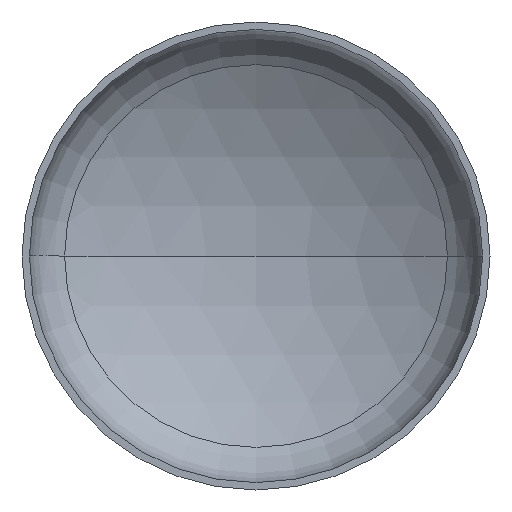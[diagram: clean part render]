
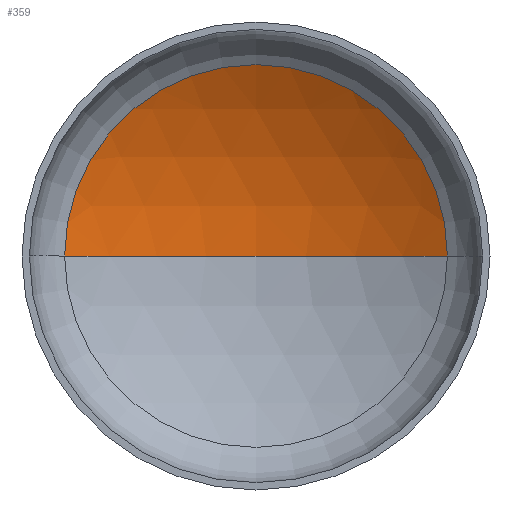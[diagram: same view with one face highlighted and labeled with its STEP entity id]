
A CAD part, front view. The second image highlights one B-rep face of the part: STEP entity #359.
In plain terms, the highlighted spherical face has radius 3040 mm.
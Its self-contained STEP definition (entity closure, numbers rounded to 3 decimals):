
#16 = DIRECTION ( 'NONE',  ( -1., 0., 0. ) ) ;
#20 = DIRECTION ( 'NONE',  ( 0., 0., -1. ) ) ;
#27 = EDGE_LOOP ( 'NONE', ( #44, #33, #131 ) ) ;
#28 = AXIS2_PLACEMENT_3D ( 'NONE', #279, #239, #378 ) ;
#33 = ORIENTED_EDGE ( 'NONE', *, *, #93, .T. ) ;
#35 = AXIS2_PLACEMENT_3D ( 'NONE', #329, #20, #16 ) ;
#36 = AXIS2_PLACEMENT_3D ( 'NONE', #309, #168, #333 ) ;
#44 = ORIENTED_EDGE ( 'NONE', *, *, #95, .F. ) ;
#59 = VERTEX_POINT ( 'NONE', #233 ) ;
#62 = DIRECTION ( 'NONE',  ( 0., 0., -1. ) ) ;
#70 = VERTEX_POINT ( 'NONE', #252 ) ;
#92 = EDGE_CURVE ( 'NONE', #59, #120, #349, .T. ) ;
#93 = EDGE_CURVE ( 'NONE', #70, #59, #228, .T. ) ;
#95 = EDGE_CURVE ( 'NONE', #70, #120, #224, .T. ) ;
#120 = VERTEX_POINT ( 'NONE', #327 ) ;
#131 = ORIENTED_EDGE ( 'NONE', *, *, #92, .T. ) ;
#138 = CARTESIAN_POINT ( 'NONE',  ( 0., -1989.976, 0. ) ) ;
#168 = DIRECTION ( 'NONE',  ( 0., -1., 0. ) ) ;
#224 = CIRCLE ( 'NONE', #28, 3040. ) ;
#228 = CIRCLE ( 'NONE', #35, 3040. ) ;
#233 = CARTESIAN_POINT ( 'NONE',  ( 1554.053, 622.785, 0. ) ) ;
#239 = DIRECTION ( 'NONE',  ( 0., 0., 1. ) ) ;
#243 = SPHERICAL_SURFACE ( 'NONE', #328, 3040. ) ;
#252 = CARTESIAN_POINT ( 'NONE',  ( 0., 1050.024, 0. ) ) ;
#279 = CARTESIAN_POINT ( 'NONE',  ( 0., -1989.976, 0. ) ) ;
#286 = DIRECTION ( 'NONE',  ( -1., 0., 0. ) ) ;
#309 = CARTESIAN_POINT ( 'NONE',  ( 0., 622.785, 0. ) ) ;
#327 = CARTESIAN_POINT ( 'NONE',  ( -1554.053, 622.785, 0. ) ) ;
#328 = AXIS2_PLACEMENT_3D ( 'NONE', #138, #62, #286 ) ;
#329 = CARTESIAN_POINT ( 'NONE',  ( 0., -1989.976, 0. ) ) ;
#333 = DIRECTION ( 'NONE',  ( 1., 0., 0. ) ) ;
#349 = CIRCLE ( 'NONE', #36, 1554.053 ) ;
#359 = ADVANCED_FACE ( 'NONE', ( #362 ), #243, .F. ) ;
#362 = FACE_OUTER_BOUND ( 'NONE', #27, .T. ) ;
#378 = DIRECTION ( 'NONE',  ( 1., 0., 0. ) ) ;
